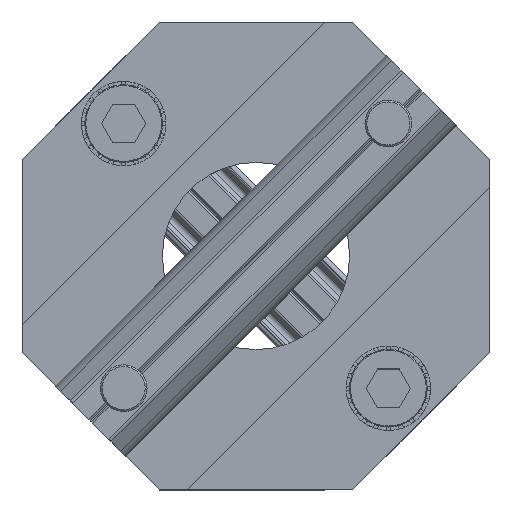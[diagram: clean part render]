
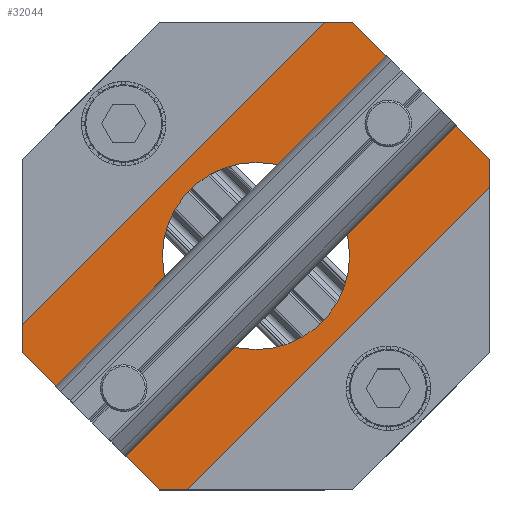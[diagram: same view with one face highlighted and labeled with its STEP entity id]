
A CAD part, top view. The second image highlights one B-rep face of the part: STEP entity #32044.
In plain terms, the highlighted planar face has unit normal (0, 0, 1).
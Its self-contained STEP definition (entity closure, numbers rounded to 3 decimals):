
#98 = CARTESIAN_POINT ( 'NONE',  ( -41.477, -19.245, 14.512 ) ) ;
#483 = EDGE_CURVE ( 'NONE', #21582, #6168, #41130, .T. ) ;
#591 = DIRECTION ( 'NONE',  ( 0., 0., 1. ) ) ;
#1388 = EDGE_LOOP ( 'NONE', ( #32233, #8041 ) ) ;
#2573 = VERTEX_POINT ( 'NONE', #25431 ) ;
#2789 = CIRCLE ( 'NONE', #15608, 2.55 ) ;
#3365 = EDGE_CURVE ( 'NONE', #14725, #11240, #5260, .T. ) ;
#4999 = DIRECTION ( 'NONE',  ( 0., 0., 1. ) ) ;
#5260 = CIRCLE ( 'NONE', #16511, 2.55 ) ;
#5534 = PLANE ( 'NONE',  #17528 ) ;
#5761 = ORIENTED_EDGE ( 'NONE', *, *, #34657, .F. ) ;
#5926 = CIRCLE ( 'NONE', #32027, 10. ) ;
#6168 = VERTEX_POINT ( 'NONE', #16543 ) ;
#6573 = VECTOR ( 'NONE', #32951, 1000. ) ;
#7122 = ORIENTED_EDGE ( 'NONE', *, *, #38971, .F. ) ;
#7123 = ORIENTED_EDGE ( 'NONE', *, *, #32779, .F. ) ;
#7417 = CARTESIAN_POINT ( 'NONE',  ( -20.766, 30.755, 14.512 ) ) ;
#7643 = CARTESIAN_POINT ( 'NONE',  ( -47.814, -8.387, 14.512 ) ) ;
#7838 = EDGE_CURVE ( 'NONE', #23632, #6168, #39070, .T. ) ;
#8041 = ORIENTED_EDGE ( 'NONE', *, *, #32353, .F. ) ;
#8983 = CARTESIAN_POINT ( 'NONE',  ( -6.121, 16.111, 14.512 ) ) ;
#9106 = AXIS2_PLACEMENT_3D ( 'NONE', #36575, #42223, #29246 ) ;
#9257 = CARTESIAN_POINT ( 'NONE',  ( -41.121, 5.755, 14.512 ) ) ;
#9721 = DIRECTION ( 'NONE',  ( 0., -1., 0. ) ) ;
#10386 = CIRCLE ( 'NONE', #9106, 10. ) ;
#10484 = CARTESIAN_POINT ( 'NONE',  ( -31.121, 5.755, 14.512 ) ) ;
#10570 = CARTESIAN_POINT ( 'NONE',  ( -21.121, 5.755, 14.512 ) ) ;
#10640 = VERTEX_POINT ( 'NONE', #40722 ) ;
#11164 = ORIENTED_EDGE ( 'NONE', *, *, #31442, .T. ) ;
#11240 = VERTEX_POINT ( 'NONE', #34853 ) ;
#11474 = CARTESIAN_POINT ( 'NONE',  ( -14.429, 19.898, 14.512 ) ) ;
#11524 = VERTEX_POINT ( 'NONE', #10570 ) ;
#11952 = CARTESIAN_POINT ( 'NONE',  ( -38.444, -19.245, 14.512 ) ) ;
#12299 = VECTOR ( 'NONE', #33918, 1000. ) ;
#12371 = VECTOR ( 'NONE', #27514, 1000. ) ;
#12467 = VECTOR ( 'NONE', #9721, 1000. ) ;
#12884 = DIRECTION ( 'NONE',  ( 0., 0., 1. ) ) ;
#12959 = LINE ( 'NONE', #14749, #32762 ) ;
#13132 = AXIS2_PLACEMENT_3D ( 'NONE', #36050, #591, #16594 ) ;
#14725 = VERTEX_POINT ( 'NONE', #7643 ) ;
#14749 = CARTESIAN_POINT ( 'NONE',  ( -56.121, -4.6, 14.512 ) ) ;
#14870 = DIRECTION ( 'NONE',  ( 0.707, 0.707, 0. ) ) ;
#15358 = ORIENTED_EDGE ( 'NONE', *, *, #19215, .F. ) ;
#15400 = EDGE_LOOP ( 'NONE', ( #5761, #7123 ) ) ;
#15608 = AXIS2_PLACEMENT_3D ( 'NONE', #40472, #4999, #21068 ) ;
#15889 = VERTEX_POINT ( 'NONE', #11474 ) ;
#16045 = DIRECTION ( 'NONE',  ( 1., 0., 0. ) ) ;
#16511 = AXIS2_PLACEMENT_3D ( 'NONE', #42119, #35456, #16045 ) ;
#16543 = CARTESIAN_POINT ( 'NONE',  ( -23.799, 30.755, 14.512 ) ) ;
#16594 = DIRECTION ( 'NONE',  ( 1., 0., 0. ) ) ;
#16730 = VECTOR ( 'NONE', #14870, 1000. ) ;
#17528 = AXIS2_PLACEMENT_3D ( 'NONE', #38190, #25124, #41399 ) ;
#18332 = VECTOR ( 'NONE', #24607, 1000. ) ;
#19215 = EDGE_CURVE ( 'NONE', #26164, #25812, #31660, .T. ) ;
#19688 = VECTOR ( 'NONE', #28843, 1000. ) ;
#19787 = EDGE_CURVE ( 'NONE', #30389, #25812, #30555, .T. ) ;
#19827 = CARTESIAN_POINT ( 'NONE',  ( -56.121, -1.567, 14.512 ) ) ;
#20513 = VERTEX_POINT ( 'NONE', #25583 ) ;
#21068 = DIRECTION ( 'NONE',  ( 1., 0., 0. ) ) ;
#21308 = VERTEX_POINT ( 'NONE', #9257 ) ;
#21582 = VERTEX_POINT ( 'NONE', #31034 ) ;
#22667 = DIRECTION ( 'NONE',  ( 1., 0., 0. ) ) ;
#23215 = FACE_OUTER_BOUND ( 'NONE', #24041, .T. ) ;
#23403 = EDGE_CURVE ( 'NONE', #20513, #30389, #12959, .T. ) ;
#23632 = VERTEX_POINT ( 'NONE', #19827 ) ;
#23635 = LINE ( 'NONE', #35851, #12467 ) ;
#24041 = EDGE_LOOP ( 'NONE', ( #36694, #15358, #38633, #11164, #36895, #26524, #35153, #28620 ) ) ;
#24121 = CARTESIAN_POINT ( 'NONE',  ( -41.477, -19.245, 14.512 ) ) ;
#24607 = DIRECTION ( 'NONE',  ( -0.707, 0.707, 0. ) ) ;
#25124 = DIRECTION ( 'NONE',  ( 0., 0., 1. ) ) ;
#25431 = CARTESIAN_POINT ( 'NONE',  ( -6.121, 16.111, 14.512 ) ) ;
#25583 = CARTESIAN_POINT ( 'NONE',  ( -56.121, -4.6, 14.512 ) ) ;
#25611 = CARTESIAN_POINT ( 'NONE',  ( -6.121, -4.6, 14.512 ) ) ;
#25812 = VERTEX_POINT ( 'NONE', #11952 ) ;
#26164 = VERTEX_POINT ( 'NONE', #33502 ) ;
#26489 = DIRECTION ( 'NONE',  ( 0., 0., 1. ) ) ;
#26524 = ORIENTED_EDGE ( 'NONE', *, *, #7838, .F. ) ;
#26901 = LINE ( 'NONE', #8983, #18332 ) ;
#27186 = EDGE_CURVE ( 'NONE', #23632, #20513, #23635, .T. ) ;
#27448 = DIRECTION ( 'NONE',  ( 0.707, -0.707, 0. ) ) ;
#27514 = DIRECTION ( 'NONE',  ( -0.707, -0.707, 0. ) ) ;
#28529 = AXIS2_PLACEMENT_3D ( 'NONE', #32162, #12884, #22667 ) ;
#28620 = ORIENTED_EDGE ( 'NONE', *, *, #23403, .T. ) ;
#28843 = DIRECTION ( 'NONE',  ( 0., 1., 0. ) ) ;
#29246 = DIRECTION ( 'NONE',  ( 1., 0., 0. ) ) ;
#30270 = FACE_BOUND ( 'NONE', #1388, .T. ) ;
#30389 = VERTEX_POINT ( 'NONE', #98 ) ;
#30555 = LINE ( 'NONE', #24121, #12299 ) ;
#31034 = CARTESIAN_POINT ( 'NONE',  ( -20.766, 30.755, 14.512 ) ) ;
#31344 = LINE ( 'NONE', #25611, #19688 ) ;
#31442 = EDGE_CURVE ( 'NONE', #2573, #21582, #26901, .T. ) ;
#31660 = LINE ( 'NONE', #41017, #12371 ) ;
#31742 = CIRCLE ( 'NONE', #13132, 2.55 ) ;
#31823 = FACE_BOUND ( 'NONE', #32025, .T. ) ;
#31955 = CIRCLE ( 'NONE', #28529, 2.55 ) ;
#32025 = EDGE_LOOP ( 'NONE', ( #38487, #7122 ) ) ;
#32027 = AXIS2_PLACEMENT_3D ( 'NONE', #10484, #26489, #36493 ) ;
#32044 = ADVANCED_FACE ( 'NONE', ( #31823, #30270, #41463, #23215 ), #5534, .T. ) ;
#32162 = CARTESIAN_POINT ( 'NONE',  ( -45.264, -8.387, 14.512 ) ) ;
#32233 = ORIENTED_EDGE ( 'NONE', *, *, #39800, .F. ) ;
#32353 = EDGE_CURVE ( 'NONE', #15889, #10640, #31742, .T. ) ;
#32762 = VECTOR ( 'NONE', #27448, 1000. ) ;
#32779 = EDGE_CURVE ( 'NONE', #21308, #11524, #10386, .T. ) ;
#32951 = DIRECTION ( 'NONE',  ( -1., 0., 0. ) ) ;
#33502 = CARTESIAN_POINT ( 'NONE',  ( -6.121, 13.078, 14.512 ) ) ;
#33918 = DIRECTION ( 'NONE',  ( 1., 0., 0. ) ) ;
#34657 = EDGE_CURVE ( 'NONE', #11524, #21308, #5926, .T. ) ;
#34853 = CARTESIAN_POINT ( 'NONE',  ( -42.714, -8.387, 14.512 ) ) ;
#35153 = ORIENTED_EDGE ( 'NONE', *, *, #27186, .T. ) ;
#35456 = DIRECTION ( 'NONE',  ( 0., 0., 1. ) ) ;
#35851 = CARTESIAN_POINT ( 'NONE',  ( -56.121, 16.111, 14.512 ) ) ;
#36050 = CARTESIAN_POINT ( 'NONE',  ( -16.979, 19.898, 14.512 ) ) ;
#36493 = DIRECTION ( 'NONE',  ( 1., 0., 0. ) ) ;
#36575 = CARTESIAN_POINT ( 'NONE',  ( -31.121, 5.755, 14.512 ) ) ;
#36694 = ORIENTED_EDGE ( 'NONE', *, *, #19787, .T. ) ;
#36895 = ORIENTED_EDGE ( 'NONE', *, *, #483, .T. ) ;
#37727 = CARTESIAN_POINT ( 'NONE',  ( -23.799, 30.755, 14.512 ) ) ;
#38141 = EDGE_CURVE ( 'NONE', #26164, #2573, #31344, .T. ) ;
#38190 = CARTESIAN_POINT ( 'NONE',  ( 0., 0., 14.512 ) ) ;
#38487 = ORIENTED_EDGE ( 'NONE', *, *, #3365, .F. ) ;
#38633 = ORIENTED_EDGE ( 'NONE', *, *, #38141, .T. ) ;
#38971 = EDGE_CURVE ( 'NONE', #11240, #14725, #31955, .T. ) ;
#39070 = LINE ( 'NONE', #37727, #16730 ) ;
#39800 = EDGE_CURVE ( 'NONE', #10640, #15889, #2789, .T. ) ;
#40472 = CARTESIAN_POINT ( 'NONE',  ( -16.979, 19.898, 14.512 ) ) ;
#40722 = CARTESIAN_POINT ( 'NONE',  ( -19.529, 19.898, 14.512 ) ) ;
#41017 = CARTESIAN_POINT ( 'NONE',  ( -38.444, -19.245, 14.512 ) ) ;
#41130 = LINE ( 'NONE', #7417, #6573 ) ;
#41399 = DIRECTION ( 'NONE',  ( 1., 0., 0. ) ) ;
#41463 = FACE_BOUND ( 'NONE', #15400, .T. ) ;
#42119 = CARTESIAN_POINT ( 'NONE',  ( -45.264, -8.387, 14.512 ) ) ;
#42223 = DIRECTION ( 'NONE',  ( 0., 0., 1. ) ) ;
